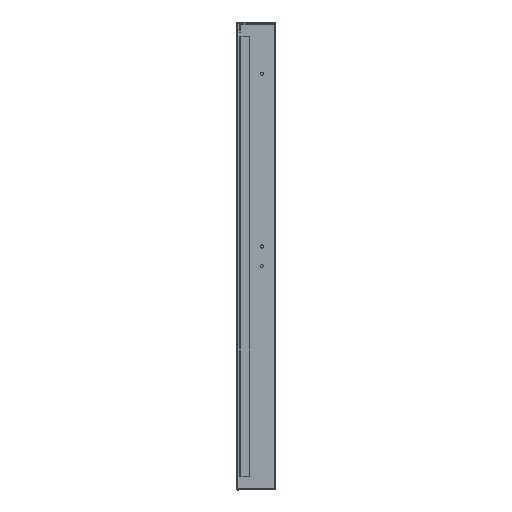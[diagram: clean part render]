
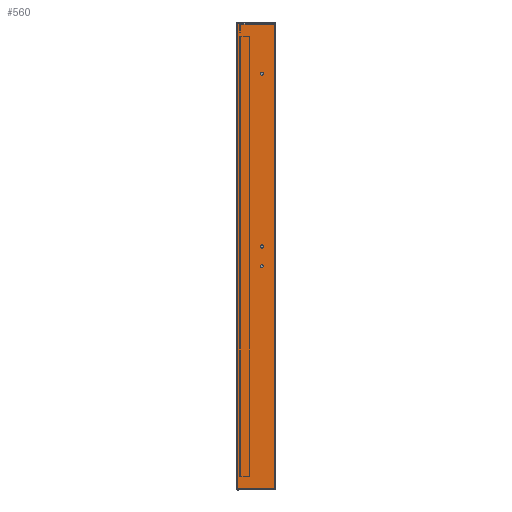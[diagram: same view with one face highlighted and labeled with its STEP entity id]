
A CAD part, left-side view. The second image highlights one B-rep face of the part: STEP entity #560.
In plain terms, the highlighted planar face has unit normal (-1, 0, 0).
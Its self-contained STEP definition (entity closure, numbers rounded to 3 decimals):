
#560=ADVANCED_FACE('',(#924,#926,#928,#930),#932,.F.);
#924=FACE_BOUND('',#925,.T.);
#925=EDGE_LOOP('',(#3612,#3613,#3614,#3615,#3616,#3617,#3618,#3619));
#926=FACE_BOUND('',#927,.T.);
#927=EDGE_LOOP('',(#3620));
#928=FACE_BOUND('',#929,.T.);
#929=EDGE_LOOP('',(#3621));
#930=FACE_BOUND('',#931,.T.);
#931=EDGE_LOOP('',(#3622));
#932=PLANE('',#933);
#933=AXIS2_PLACEMENT_3D('',#934,#935,#936);
#934=CARTESIAN_POINT('',(-297.5,-296.419,0.));
#935=DIRECTION('',(1.,0.,0.));
#936=DIRECTION('',(0.,-1.,0.));
#3612=ORIENTED_EDGE('',*,*,#4669,.T.);
#3613=ORIENTED_EDGE('',*,*,#4678,.T.);
#3614=ORIENTED_EDGE('',*,*,#4679,.T.);
#3615=ORIENTED_EDGE('',*,*,#4680,.T.);
#3616=ORIENTED_EDGE('',*,*,#4681,.T.);
#3617=ORIENTED_EDGE('',*,*,#4682,.T.);
#3618=ORIENTED_EDGE('',*,*,#4683,.T.);
#3619=ORIENTED_EDGE('',*,*,#4684,.T.);
#3620=ORIENTED_EDGE('',*,*,#4685,.T.);
#3621=ORIENTED_EDGE('',*,*,#4686,.T.);
#3622=ORIENTED_EDGE('',*,*,#4687,.T.);
#4669=EDGE_CURVE('',#5225,#5218,#5226,.T.);
#4678=EDGE_CURVE('',#5218,#5239,#5240,.T.);
#4679=EDGE_CURVE('',#5239,#5241,#5242,.T.);
#4680=EDGE_CURVE('',#5241,#5243,#5244,.T.);
#4681=EDGE_CURVE('',#5243,#5245,#5246,.T.);
#4682=EDGE_CURVE('',#5245,#5247,#5248,.T.);
#4683=EDGE_CURVE('',#5247,#5249,#5250,.T.);
#4684=EDGE_CURVE('',#5249,#5225,#5251,.T.);
#4685=EDGE_CURVE('',#5252,#5252,#5253,.F.);
#4686=EDGE_CURVE('',#5254,#5254,#5255,.F.);
#4687=EDGE_CURVE('',#5256,#5256,#5257,.F.);
#5218=VERTEX_POINT('',#6147);
#5225=VERTEX_POINT('',#6167);
#5226=LINE('',#6168,#6169);
#5239=VERTEX_POINT('',#6205);
#5240=LINE('',#6206,#6207);
#5241=VERTEX_POINT('',#6209);
#5242=LINE('',#6210,#6211);
#5243=VERTEX_POINT('',#6213);
#5244=LINE('',#6214,#6215);
#5245=VERTEX_POINT('',#6217);
#5246=LINE('',#6218,#6219);
#5247=VERTEX_POINT('',#6221);
#5248=LINE('',#6222,#6223);
#5249=VERTEX_POINT('',#6225);
#5250=LINE('',#6226,#6227);
#5251=LINE('',#6229,#6230);
#5252=VERTEX_POINT('',#6232);
#5253=CIRCLE('',#6233,2.1);
#5254=VERTEX_POINT('',#6237);
#5255=CIRCLE('',#6238,1.75);
#5256=VERTEX_POINT('',#6242);
#5257=CIRCLE('',#6243,2.1);
#6147=CARTESIAN_POINT('',(-297.5,48.8,-295.629));
#6167=CARTESIAN_POINT('',(-297.5,48.8,296.829));
#6168=CARTESIAN_POINT('',(-297.5,48.8,296.829));
#6169=VECTOR('',#6170,1.);
#6170=DIRECTION('',(0.,0.,-1.));
#6205=CARTESIAN_POINT('',(-297.5,1.2,-295.629));
#6206=CARTESIAN_POINT('',(-297.5,48.8,-295.629));
#6207=VECTOR('',#6208,1.);
#6208=DIRECTION('',(0.,-1.,0.));
#6209=CARTESIAN_POINT('',(-297.5,1.2,295.629));
#6210=CARTESIAN_POINT('',(-297.5,1.2,-295.629));
#6211=VECTOR('',#6212,1.);
#6212=DIRECTION('',(0.,0.,1.));
#6213=CARTESIAN_POINT('',(-297.5,44.2,295.629));
#6214=CARTESIAN_POINT('',(-297.5,1.2,295.629));
#6215=VECTOR('',#6216,1.);
#6216=DIRECTION('',(0.,1.,0.));
#6217=CARTESIAN_POINT('',(-297.5,44.2,295.429));
#6218=CARTESIAN_POINT('',(-297.5,44.2,295.629));
#6219=VECTOR('',#6220,1.);
#6220=DIRECTION('',(0.,0.,-1.));
#6221=CARTESIAN_POINT('',(-297.5,44.4,295.429));
#6222=CARTESIAN_POINT('',(-297.5,44.2,295.429));
#6223=VECTOR('',#6224,1.);
#6224=DIRECTION('',(0.,1.,0.));
#6225=CARTESIAN_POINT('',(-297.5,44.4,296.829));
#6226=CARTESIAN_POINT('',(-297.5,44.4,295.429));
#6227=VECTOR('',#6228,1.);
#6228=DIRECTION('',(0.,0.,1.));
#6229=CARTESIAN_POINT('',(-297.5,44.4,296.829));
#6230=VECTOR('',#6231,1.);
#6231=DIRECTION('',(0.,1.,0.));
#6232=CARTESIAN_POINT('',(-297.5,17.5,14.6));
#6233=AXIS2_PLACEMENT_3D('',#6234,#6235,#6236);
#6234=CARTESIAN_POINT('',(-297.5,17.5,12.5));
#6235=DIRECTION('',(-1.,0.,0.));
#6236=DIRECTION('',(0.,0.,1.));
#6237=CARTESIAN_POINT('',(-297.5,17.5,-10.75));
#6238=AXIS2_PLACEMENT_3D('',#6239,#6240,#6241);
#6239=CARTESIAN_POINT('',(-297.5,17.5,-12.5));
#6240=DIRECTION('',(-1.,0.,0.));
#6241=DIRECTION('',(0.,0.,1.));
#6242=CARTESIAN_POINT('',(-297.5,17.5,234.6));
#6243=AXIS2_PLACEMENT_3D('',#6244,#6245,#6246);
#6244=CARTESIAN_POINT('',(-297.5,17.5,232.5));
#6245=DIRECTION('',(-1.,0.,0.));
#6246=DIRECTION('',(0.,0.,1.));
